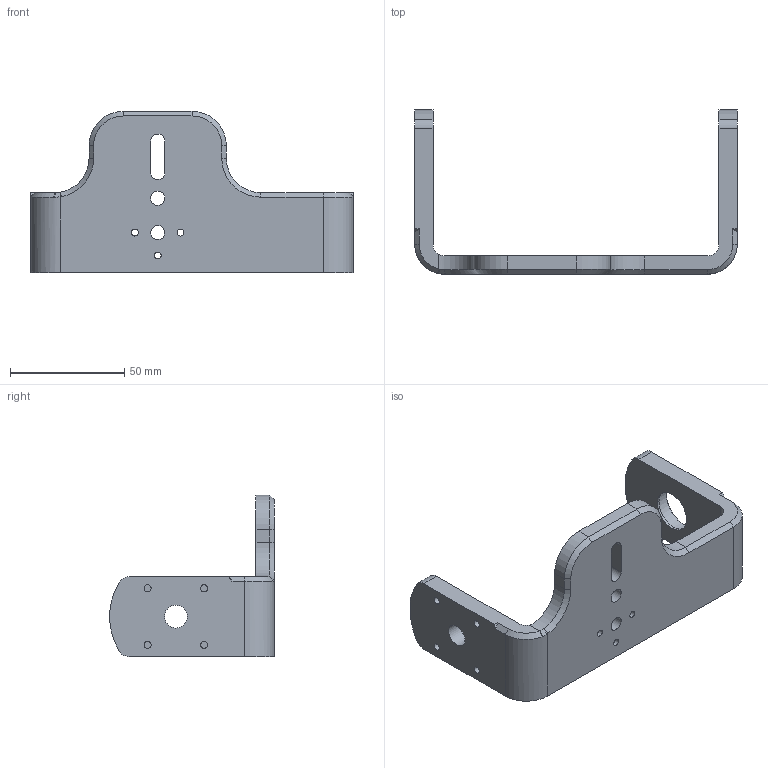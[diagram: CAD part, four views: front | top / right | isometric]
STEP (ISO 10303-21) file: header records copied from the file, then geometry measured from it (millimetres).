
FILE_DESCRIPTION(/* description */ (''),/* implementation_level */ '2;1');
FILE_NAME(/* name */ 'D:\Documents\Projects\Pan Tilt Mount\CAD STEP files\Tilt U-Mount.stp',/* time_stamp */ '2020-06-08T18:38:53+01:00',/* author */ ('isaac879'),/* organization */ (''),/* preprocessor_version */ 'ST-DEVELOPER v18',/* originating_system */ 'Autodesk Inventor 2020',/* authorisation */ '');
FILE_SCHEMA (('AUTOMOTIVE_DESIGN { 1 0 10303 214 3 1 1 }'));
Length unit declared in the file: millimetre
Products named in the file (1): Tilt U-Mount
Bounding box: 141 x 71.91 x 70.5 mm (x, y, z)
Volume: 82943.9 mm3; surface area: 28032.9 mm2
Topology: 1 solids, 1 shells, 89 faces, 244 edges, 162 vertices
Faces by surface type: plane 49, cylinder 30, cone 7, bspline 3
Full cylindrical faces by diameter (mm): 3 x3, 3.1 x4, 6.2 x2, 10 x1, 18 x1, 22 x1
Entity records: 2974 total; most frequent: CARTESIAN_POINT 564, DIRECTION 489, ORIENTED_EDGE 488, EDGE_CURVE 244, AXIS2_PLACEMENT_3D 165, VERTEX_POINT 162, LINE 159, VECTOR 159
